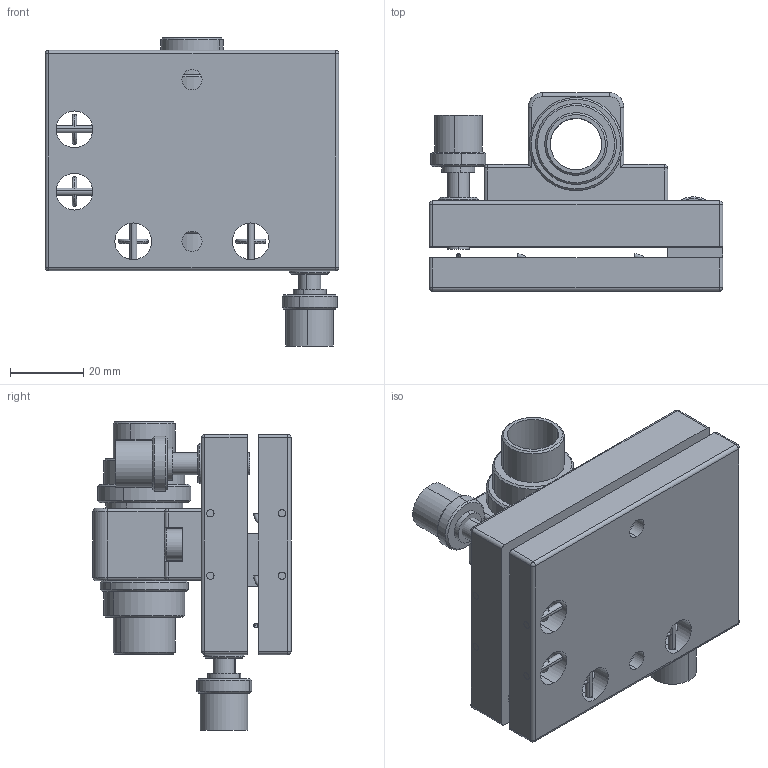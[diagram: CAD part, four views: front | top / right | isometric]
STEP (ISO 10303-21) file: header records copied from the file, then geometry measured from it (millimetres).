
FILE_DESCRIPTION (( 'STEP AP203' ), '1' );
FILE_NAME ('7MM1820拏宒覃淕噩殤.STEP', '2019-10-22T06:15:02', ( '' ), ( '' ), 'SwSTEP 2.0', 'SolidWorks 2014', '' );
FILE_SCHEMA (( 'CONFIG_CONTROL_DESIGN' ));
Length unit declared in the file: millimetre
Products named in the file (1): 7MM1820拏宒覃淕噩殤
Bounding box: 80 x 54 x 83.85 mm (x, y, z)
Surface area: 42521 mm2 (no closed solid volume)
Topology: 0 solids, 33 shells, 299 faces, 826 edges, 526 vertices
Faces by surface type: cylinder 128, plane 75, cone 40, torus 40, sphere 14, bspline 2
Entity records: 11682 total; most frequent: CARTESIAN_POINT 3900, DIRECTION 1778, ORIENTED_EDGE 1385, EDGE_CURVE 801, AXIS2_PLACEMENT_3D 733, VERTEX_POINT 523, CIRCLE 435, EDGE_LOOP 373
